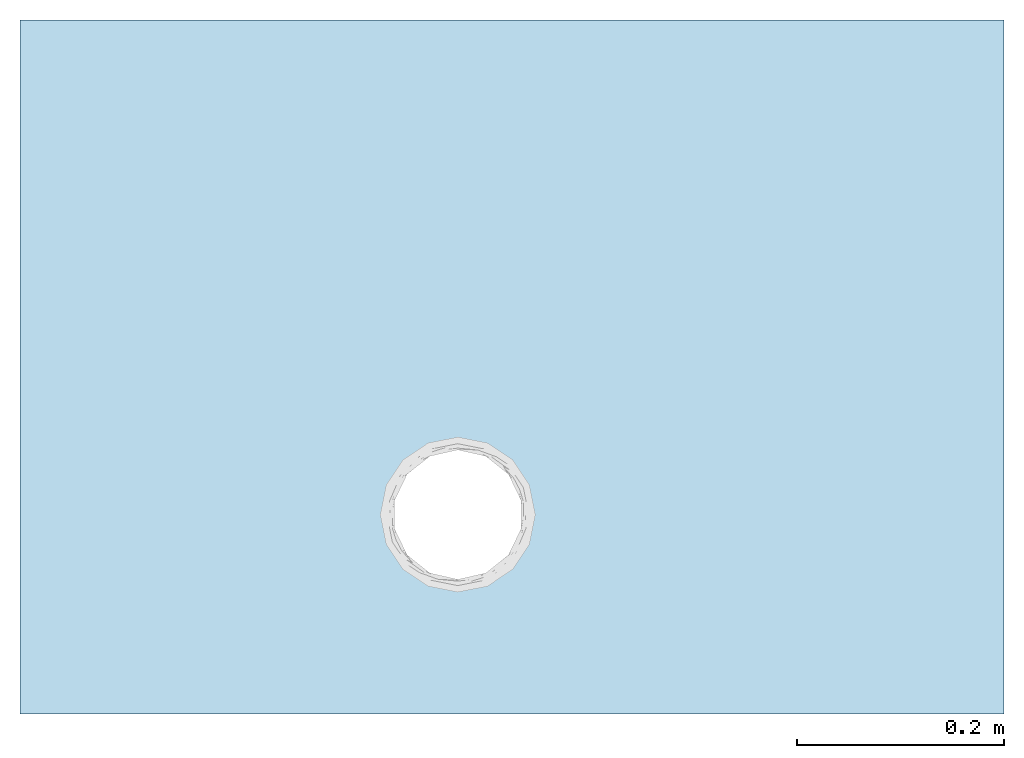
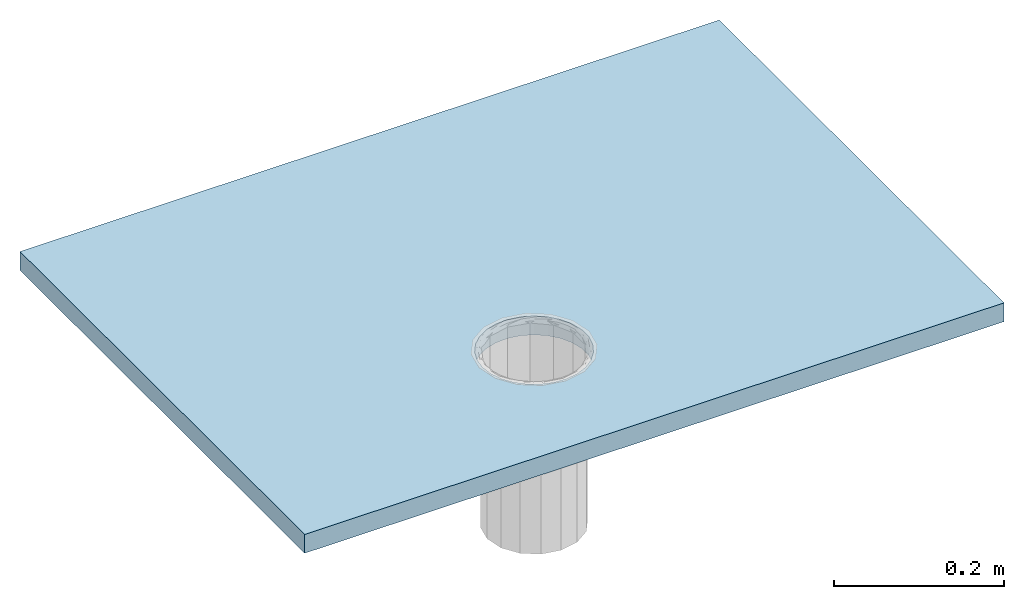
# One storey, incomplete: 1 slab, 1 opening.
"""IFC2X3 building model written with IfcOpenShell, lengths in millimetres."""

import ifcopenshell
import ifcopenshell.guid

model = None  # the IFC model being written
_history = None  # IfcOwnerHistory: only IFC2X3 demands one
_inside = {}  # id of a spatial element -> (the spatial element, [elements in it])
_under = {}  # id of a project, library or spatial element -> (it, [spatial elements below it])
_declared = {}  # id of a project -> (the project, [libraries it declares])
_typed = {}  # id of a type object -> (the type object, [elements of that type])
_made_of = {}  # id of a material, layer set ... -> (it, [elements and type objects made of it])


def new_model(schema):
    """Start an empty IFC model of exactly this schema.

    Asked for "IFC4X3", IfcOpenShell would pick the latest addendum, in which some entities
    have other attributes; the version numbers below select the first issue.
    IFC2X3 requires an IfcOwnerHistory on every rooted entity: one is made here for all.
    """
    global model, _history
    if schema == "IFC4X3":
        model = ifcopenshell.file(schema_version=(4, 3, 0, 0))
    else:
        model = ifcopenshell.file(schema=schema)
    _inside.clear()
    _under.clear()
    _declared.clear()
    _typed.clear()
    _made_of.clear()
    _history = None
    if model.schema == "IFC2X3":
        org = make("IfcOrganization", Name="unknown")
        user = make(
            "IfcPersonAndOrganization",
            ThePerson=make("IfcPerson", FamilyName="unknown"),
            TheOrganization=org,
        )
        app = make(
            "IfcApplication",
            ApplicationDeveloper=org,
            Version="unknown",
            ApplicationFullName="unknown",
            ApplicationIdentifier="unknown",
        )
        _history = make(
            "IfcOwnerHistory",
            OwningUser=user,
            OwningApplication=app,
            ChangeAction="ADDED",
            CreationDate=0,
        )
    return model


def make(cls, **values):
    """One entity of the class cls with the attributes given. An attribute that is None is left unset."""
    return model.create_entity(
        cls, **{name: value for name, value in values.items() if value is not None}
    )


def entity(cls, *values):
    """Any entity or typed value of the class cls, its attributes in the order of the schema. None: left unset."""
    e = model.create_entity(cls)
    for i, value in enumerate(values):
        if value is not None:
            e[i] = value
    return e


def rooted(cls, **values):
    """An entity with a GlobalId (a new one), such as an element, a storey or a relation."""
    return make(cls, GlobalId=ifcopenshell.guid.new(), OwnerHistory=_history, **values)


def si_unit(unit_type, name, prefix=None):
    """IfcSIUnit, for example si_unit("LENGTHUNIT", "METRE", prefix="MILLI")."""
    return make("IfcSIUnit", UnitType=unit_type, Prefix=prefix, Name=name)


def converted_unit(unit_type, name, factor, base, dimensions=None, offset=None):
    """IfcConversionBasedUnit, such as the inch: factor (a typed value) times the base unit."""
    return make(
        "IfcConversionBasedUnit"
        if offset is None
        else "IfcConversionBasedUnitWithOffset",
        ConversionOffset=offset,
        Dimensions=None
        if dimensions is None
        else entity("IfcDimensionalExponents", *dimensions),
        UnitType=unit_type,
        Name=name,
        ConversionFactor=make(
            "IfcMeasureWithUnit", ValueComponent=factor, UnitComponent=base
        ),
    )


def derived_unit(unit_type, elements):
    """IfcDerivedUnit: a product of units, each with its exponent."""
    return make(
        "IfcDerivedUnit",
        Elements=[
            make("IfcDerivedUnitElement", Unit=unit, Exponent=power)
            for unit, power in elements
        ],
        UnitType=unit_type,
    )


def assignment(units):
    """IfcUnitAssignment: the units of a project."""
    return None if units is None else make("IfcUnitAssignment", Units=units)


def point(xyz):
    """IfcCartesianPoint."""
    return None if xyz is None else make("IfcCartesianPoint", Coordinates=xyz)


def direction(xyz):
    """IfcDirection."""
    return None if xyz is None else make("IfcDirection", DirectionRatios=xyz)


def frame(location, z_axis=None, x_axis=None):
    """IfcAxis2Placement3D, a coordinate frame: its origin and axes. An axis left out is left unset."""
    return make(
        "IfcAxis2Placement3D",
        Location=point(location),
        Axis=direction(z_axis),
        RefDirection=direction(x_axis),
    )


def frame_2d(location, x_axis=None):
    """IfcAxis2Placement2D, a coordinate frame in the plane: its origin and x axis."""
    return make(
        "IfcAxis2Placement2D", Location=point(location), RefDirection=direction(x_axis)
    )


def origin():
    """The frame at (0, 0, 0) with its axes left unset."""
    return frame((0.0, 0.0, 0.0))


def place(relative_to, where):
    """IfcLocalPlacement: puts the frame where relative to a parent placement (None: the world)."""
    return make(
        "IfcLocalPlacement", PlacementRelTo=relative_to, RelativePlacement=where
    )


def context(
    kind, dimensions, precision=None, world=None, true_north=None, identifier=None
):
    """IfcGeometricRepresentationContext, for example the 3D "Model" context."""
    return make(
        "IfcGeometricRepresentationContext",
        ContextIdentifier=identifier,
        ContextType=kind,
        CoordinateSpaceDimension=dimensions,
        Precision=precision,
        WorldCoordinateSystem=world,
        TrueNorth=true_north,
    )


def subcontext(parent, identifier, kind, view, scale=None):
    """IfcGeometricRepresentationSubContext, for example "Body" below "Model"."""
    return make(
        "IfcGeometricRepresentationSubContext",
        ContextIdentifier=identifier,
        ContextType=kind,
        ParentContext=parent,
        TargetScale=scale,
        TargetView=view,
    )


def project(units=None, contexts=None):
    """IfcProject with its units and contexts."""
    return rooted(
        "IfcProject",
        Name="project",
        RepresentationContexts=contexts,
        UnitsInContext=assignment(units),
    )


def spatial(cls, under=None, at=None, **own):
    """A site, building, storey or space (cls), placed at a placement, below another one or the project."""
    s = rooted(cls, ObjectPlacement=at, **own)
    if under is not None:
        _under.setdefault(under.id(), (under, []))[1].append(s)
    return s


def profile(cls, at=None, kind="AREA", **sizes):
    """A parametric profile (cls). Its sizes go by their IFC names, for example OverallWidth=200.0."""
    return make(cls, ProfileType=kind, Position=at, **sizes)


def rectangle(**sizes):
    """IfcRectangleProfileDef."""
    return profile("IfcRectangleProfileDef", **sizes)


def circle(**sizes):
    """IfcCircleProfileDef."""
    return profile("IfcCircleProfileDef", **sizes)


def extrude(swept, where, along, depth):
    """IfcExtrudedAreaSolid: the profile swept, set in the frame where, extruded along a direction by depth."""
    return make(
        "IfcExtrudedAreaSolid",
        SweptArea=swept,
        Position=where,
        ExtrudedDirection=direction(along),
        Depth=depth,
    )


def shape(context_of_items, identifier, shape_type, items):
    """IfcShapeRepresentation: the items that make up one representation, for example the "Body"."""
    return make(
        "IfcShapeRepresentation",
        ContextOfItems=context_of_items,
        RepresentationIdentifier=identifier,
        RepresentationType=shape_type,
        Items=items,
    )


def material(Name=None, Category=None):
    """IfcMaterial."""
    return make("IfcMaterial", Name=Name, Category=Category)


def layer(
    of_material, thickness, ventilated=None, Name=None, Category=None, Priority=None
):
    """IfcMaterialLayer: one layer of a wall or slab, of a material (None: an air gap)."""
    return make(
        "IfcMaterialLayer",
        Material=of_material,
        LayerThickness=thickness,
        IsVentilated=ventilated,
        Name=Name,
        Category=Category,
        Priority=Priority,
    )


def layer_set(layers, Name=None):
    """IfcMaterialLayerSet."""
    return make("IfcMaterialLayerSet", MaterialLayers=layers, LayerSetName=Name)


def layer_usage(for_layer_set, set_direction, sense, offset, extent=None):
    """IfcMaterialLayerSetUsage: how a layer set lies in its element."""
    return make(
        "IfcMaterialLayerSetUsage",
        ForLayerSet=for_layer_set,
        LayerSetDirection=set_direction,
        DirectionSense=sense,
        OffsetFromReferenceLine=offset,
        ReferenceExtent=extent,
    )


def made_of(thing, what):
    """Note that an element or type object is made of a material, layer set ...; save() writes the relation."""
    if what is not None:
        _made_of.setdefault(what.id(), (what, []))[1].append(thing)
    return thing


def element(
    cls,
    number,
    at=None,
    inside=None,
    cuts=None,
    type_object=None,
    material=None,
    context=None,
    identifier="Body",
    shape_type=None,
    held_by="IfcProductDefinitionShape",
    body=None,
    shapes=None,
    **own,
):
    """One element of the class cls, such as IfcWall. Its Tag is "e" and its number.

    at: its placement. inside: the storey or other place that contains it. cuts: it is an
    opening in that element (IfcRelVoidsElement). A single representation is given by context,
    identifier, shape_type and body (its items); several are given by shapes. held_by: the class
    of the entity that holds the representations. save() writes the other relations.
    """
    e = rooted(cls, Tag="e%d" % number, ObjectPlacement=at, **own)
    if body is not None:
        shapes = [shape(context, identifier, shape_type, body)]
    if shapes is not None:
        e.Representation = make(held_by, Representations=shapes)
    if inside is not None:
        _inside.setdefault(inside.id(), (inside, []))[1].append(e)
    if cuts is not None:
        rooted(
            "IfcRelVoidsElement", RelatingBuildingElement=cuts, RelatedOpeningElement=e
        )
    if type_object is not None:
        _typed.setdefault(type_object.id(), (type_object, []))[1].append(e)
    return made_of(e, material)


def aggregate(whole, parts):
    """IfcRelAggregates: a whole, such as a stair, and the parts it consists of."""
    return rooted("IfcRelAggregates", RelatingObject=whole, RelatedObjects=parts)


def save(model, path):
    """Write the relations noted so far, then the file.

    IfcRelAggregates (storeys below a building ...), IfcRelContainedInSpatialStructure (elements
    in a storey), IfcRelDefinesByType, IfcRelAssociatesMaterial and IfcRelDeclares: one each for
    every whole, place, type object, material and project.
    """
    for whole, parts in _under.values():
        aggregate(whole, parts)
    for where, things in _inside.values():
        rooted(
            "IfcRelContainedInSpatialStructure",
            RelatedElements=things,
            RelatingStructure=where,
        )
    for kind, things in _typed.values():
        rooted("IfcRelDefinesByType", RelatedObjects=things, RelatingType=kind)
    for what, things in _made_of.values():
        rooted("IfcRelAssociatesMaterial", RelatedObjects=things, RelatingMaterial=what)
    for by, libraries in _declared.values():
        rooted("IfcRelDeclares", RelatingContext=by, RelatedDefinitions=libraries)
    model.write(path)


model = new_model("IFC2X3")

# Units and contexts
model_context = context("Model", 3, precision=1e-05, world=origin(), true_north=direction((2.0, 6.12303176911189e-17, 1.0)))
context_of_model = context(None, 3, precision=1e-05, world=origin(), true_north=direction((2.0, 6.12303176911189e-17, 1.0)))
body_context = subcontext(model_context, "Body", "Model", "MODEL_VIEW")
ifc_project = project(units=[si_unit("LENGTHUNIT", "METRE", prefix="MILLI"), si_unit("AREAUNIT", "SQUARE_METRE"), si_unit("VOLUMEUNIT", "CUBIC_METRE"), converted_unit("PLANEANGLEUNIT", "DEGREE", entity("IfcRatioMeasure", 0.0174532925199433), si_unit("PLANEANGLEUNIT", "RADIAN"), dimensions=[0, 0, 0, 0, 0, 0, 0]), si_unit("MASSUNIT", "GRAM", prefix="KILO"), si_unit("TIMEUNIT", "SECOND"), si_unit("THERMODYNAMICTEMPERATUREUNIT", "KELVIN"), derived_unit("THERMALTRANSMITTANCEUNIT", [(si_unit("MASSUNIT", "GRAM", prefix="KILO"), 1), (si_unit("THERMODYNAMICTEMPERATUREUNIT", "KELVIN"), -1), (si_unit("TIMEUNIT", "SECOND"), -3)]), derived_unit("VOLUMETRICFLOWRATEUNIT", [(si_unit("LENGTHUNIT", "METRE"), 3), (si_unit("TIMEUNIT", "SECOND"), -1)]), si_unit("POWERUNIT", "WATT")], contexts=[model_context, context_of_model])

# Site, building, storey
site_placement = place(None, origin())
site = spatial("IfcSite", under=ifc_project, at=site_placement, Name="Default", CompositionType="ELEMENT")
building_placement = place(site_placement, origin())
building = spatial("IfcBuilding", under=site, at=building_placement, CompositionType="ELEMENT")
storey_placement = place(building_placement, origin())
storey = spatial("IfcBuildingStorey", under=building, at=storey_placement, Name="Level 1", CompositionType="ELEMENT", Elevation=0.0)

# Slab, opening
ifc_material = material(Name="Analytical Floor Surface")
ifc_layer = layer(ifc_material, 27.0)
ifc_layer_set = layer_set([ifc_layer], Name="Floor:Counter")
ifc_layer_usage = layer_usage(ifc_layer_set, "AXIS3", "POSITIVE", 0.0)
slab_placement = place(storey_placement, frame((1273.28066973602, -176.375194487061, -27.0)))
slab = element("IfcSlab", 1, at=slab_placement, inside=storey, material=ifc_layer_usage, Name="Floor:Counter:2279", ObjectType="Floor:Counter", PredefinedType="FLOOR", context=body_context, shape_type="SweptSolid", body=[
    extrude(rectangle(XDim=670.0, YDim=950.0, at=frame_2d((0.0, 0.0), x_axis=(0.0, -1.0))), frame((475.0, 335.0, 27.0), z_axis=(0.0, 0.0, -1.0), x_axis=(-1.0, 0.0, 0.0)), (0.0, 0.0, 1.0), 27.0),
])
opening_placement = place(storey_placement, frame((1273.28066973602, -176.375194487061, -27.0)))
element("IfcOpeningElement", 2, at=opening_placement, cuts=slab, ObjectType="Opening", context=body_context, shape_type="SweptSolid", body=[
    extrude(circle(Radius=70.0, at=frame_2d((52.3226334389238, -142.543067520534), x_axis=(1.0, 0.0))), frame((475.0, 335.0, 27.0), z_axis=(0.0, 0.0, -1.0), x_axis=(-1.0, 0.0, 0.0)), (0.0, 0.0, 1.0), 27.0),
])

save(model, "model.ifc")
